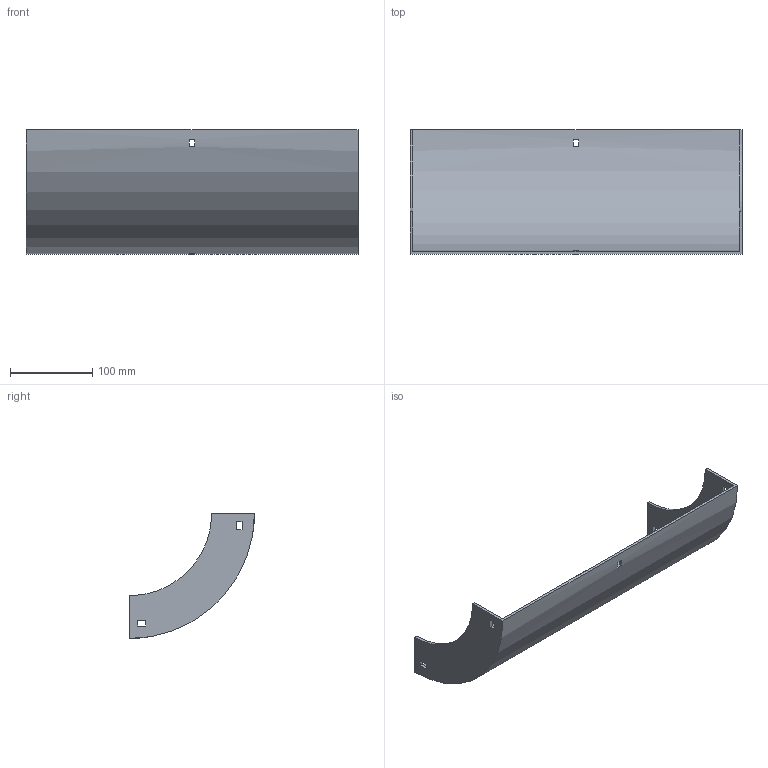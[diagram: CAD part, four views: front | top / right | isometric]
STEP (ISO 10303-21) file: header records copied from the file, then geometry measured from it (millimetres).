
FILE_DESCRIPTION (( 'STEP AP214' ), '1' );
FILE_NAME ('30B1B400.step', '2025-02-21T09:49:43', ( '' ), ( '' ), 'SwSTEP 2.0', 'SolidWorks 2023', '' );
FILE_SCHEMA (( 'AUTOMOTIVE_DESIGN' ));
Length unit declared in the file: millimetre
Products named in the file (1): 30B1B400
Bounding box: 404 x 152 x 152 mm (x, y, z)
Volume: 398589.8 mm3; surface area: 233085.8 mm2
Topology: 1 solids, 1 shells, 34 faces, 96 edges, 64 vertices
Faces by surface type: plane 30, cylinder 4
Entity records: 1143 total; most frequent: CARTESIAN_POINT 195, ORIENTED_EDGE 192, DIRECTION 182, EDGE_CURVE 96, LINE 80, VECTOR 80, VERTEX_POINT 64, AXIS2_PLACEMENT_3D 51
